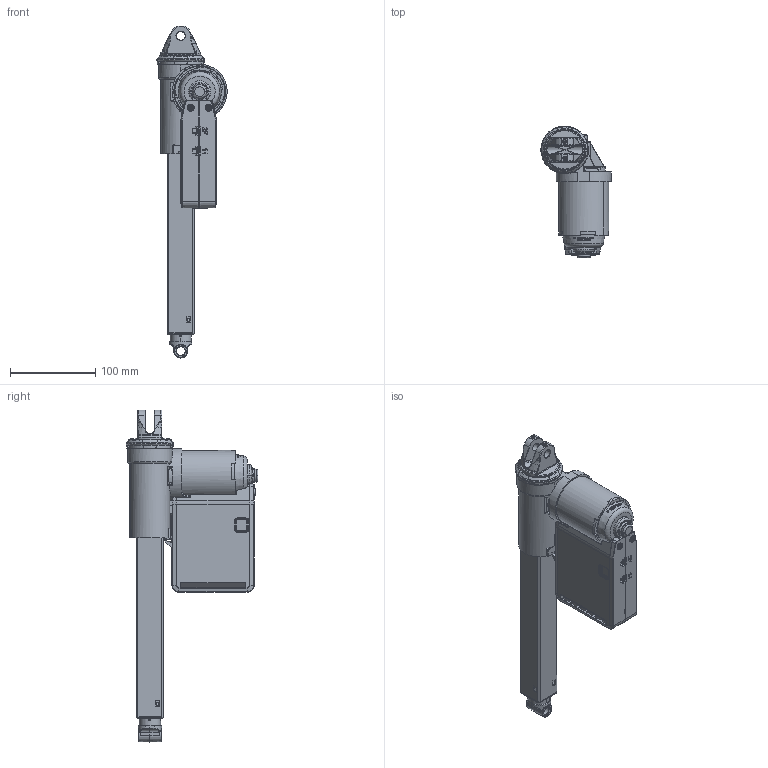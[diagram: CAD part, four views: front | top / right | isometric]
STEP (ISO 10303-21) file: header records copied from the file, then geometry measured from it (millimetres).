
FILE_DESCRIPTION((''),'2;1');
FILE_NAME('1026W4015_ASM','2020-03-31T21:27:06',('ti'),(''),'CREO PARAMETRIC BY PTC INC, 2019344','CREO PARAMETRIC BY PTC INC, 2019344','');
FILE_SCHEMA(('AUTOMOTIVE_DESIGN { 1 0 10303 214 1 1 1 1 }'));
Products named in the file (7): 1026W4016; 1026W4017; 1026W4018; 1026W4019; 1026W4021; 1026W4031; 1026W4015_ASM
Assembly tree (6 placements, depth 2):
  1026W4015_ASM
    1026W4016
    1026W4017
    1026W4018
    1026W4019
    1026W4021
    1026W4031
Bounding box: 82.45 x 154.74 x 389.6 mm (x, y, z)
Volume: 1319454.7 mm3; surface area: 199023.8 mm2
Topology: 6 solids, 6 shells, 4679 faces, 12073 edges, 7585 vertices
Faces by surface type: plane 2465, cylinder 1059, bspline 550, torus 215, cone 197, sphere 133, extrusion 60
Entity records: 186364 total; most frequent: CARTESIAN_POINT 67255, ORIENTED_EDGE 24122, DIRECTION 19658, EDGE_CURVE 12061, VERTEX_POINT 7585, VECTOR 6616, LINE 6556, AXIS2_PLACEMENT_3D 6521
